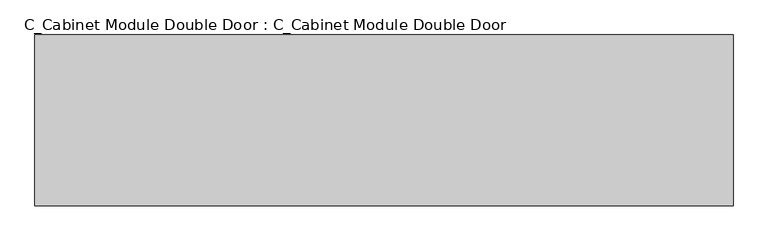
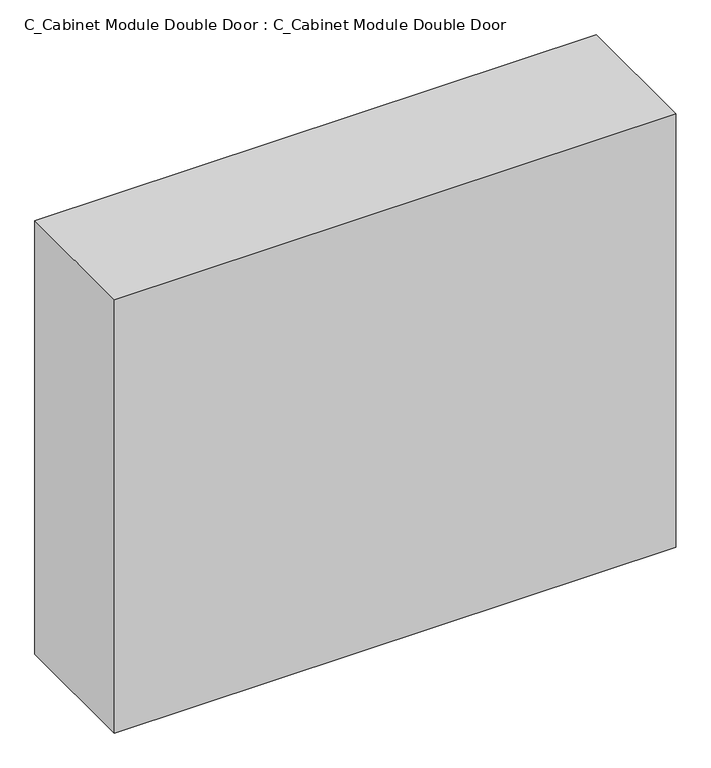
"""IFC4 building model written with IfcOpenShell, lengths in millimetres: furniture geometry, C_Cabinet Module Double Door : C_Cabinet Module Double Door."""

import ifcopenshell
import ifcopenshell.guid

model = None  # the IFC model being written
_history = None  # IfcOwnerHistory: only IFC2X3 demands one
_inside = {}  # id of a spatial element -> (the spatial element, [elements in it])
_under = {}  # id of a project, library or spatial element -> (it, [spatial elements below it])
_declared = {}  # id of a project -> (the project, [libraries it declares])
_typed = {}  # id of a type object -> (the type object, [elements of that type])
_made_of = {}  # id of a material, layer set ... -> (it, [elements and type objects made of it])


def new_model(schema):
    """Start an empty IFC model of exactly this schema.

    Asked for "IFC4X3", IfcOpenShell would pick the latest addendum, in which some entities
    have other attributes; the version numbers below select the first issue.
    IFC2X3 requires an IfcOwnerHistory on every rooted entity: one is made here for all.
    """
    global model, _history
    if schema == "IFC4X3":
        model = ifcopenshell.file(schema_version=(4, 3, 0, 0))
    else:
        model = ifcopenshell.file(schema=schema)
    _inside.clear()
    _under.clear()
    _declared.clear()
    _typed.clear()
    _made_of.clear()
    _history = None
    if model.schema == "IFC2X3":
        org = make("IfcOrganization", Name="unknown")
        user = make(
            "IfcPersonAndOrganization",
            ThePerson=make("IfcPerson", FamilyName="unknown"),
            TheOrganization=org,
        )
        app = make(
            "IfcApplication",
            ApplicationDeveloper=org,
            Version="unknown",
            ApplicationFullName="unknown",
            ApplicationIdentifier="unknown",
        )
        _history = make(
            "IfcOwnerHistory",
            OwningUser=user,
            OwningApplication=app,
            ChangeAction="ADDED",
            CreationDate=0,
        )
    return model


def make(cls, **values):
    """One entity of the class cls with the attributes given. An attribute that is None is left unset."""
    return model.create_entity(
        cls, **{name: value for name, value in values.items() if value is not None}
    )


def rooted(cls, **values):
    """An entity with a GlobalId (a new one), such as an element, a storey or a relation."""
    return make(cls, GlobalId=ifcopenshell.guid.new(), OwnerHistory=_history, **values)


def si_unit(unit_type, name, prefix=None):
    """IfcSIUnit, for example si_unit("LENGTHUNIT", "METRE", prefix="MILLI")."""
    return make("IfcSIUnit", UnitType=unit_type, Prefix=prefix, Name=name)


def assignment(units):
    """IfcUnitAssignment: the units of a project."""
    return None if units is None else make("IfcUnitAssignment", Units=units)


def point(xyz):
    """IfcCartesianPoint."""
    return None if xyz is None else make("IfcCartesianPoint", Coordinates=xyz)


def direction(xyz):
    """IfcDirection."""
    return None if xyz is None else make("IfcDirection", DirectionRatios=xyz)


def frame(location, z_axis=None, x_axis=None):
    """IfcAxis2Placement3D, a coordinate frame: its origin and axes. An axis left out is left unset."""
    return make(
        "IfcAxis2Placement3D",
        Location=point(location),
        Axis=direction(z_axis),
        RefDirection=direction(x_axis),
    )


def origin():
    """The frame at (0, 0, 0) with its axes left unset."""
    return frame((0.0, 0.0, 0.0))


def origin_with_axes():
    """The frame at (0, 0, 0) with the z axis (0, 0, 1) and the x axis (1, 0, 0) written out."""
    return frame((0.0, 0.0, 0.0), z_axis=(0.0, 0.0, 1.0), x_axis=(1.0, 0.0, 0.0))


def place(relative_to, where):
    """IfcLocalPlacement: puts the frame where relative to a parent placement (None: the world)."""
    return make(
        "IfcLocalPlacement", PlacementRelTo=relative_to, RelativePlacement=where
    )


def context(
    kind, dimensions, precision=None, world=None, true_north=None, identifier=None
):
    """IfcGeometricRepresentationContext, for example the 3D "Model" context."""
    return make(
        "IfcGeometricRepresentationContext",
        ContextIdentifier=identifier,
        ContextType=kind,
        CoordinateSpaceDimension=dimensions,
        Precision=precision,
        WorldCoordinateSystem=world,
        TrueNorth=true_north,
    )


def project(units=None, contexts=None):
    """IfcProject with its units and contexts."""
    return rooted(
        "IfcProject",
        Name="project",
        RepresentationContexts=contexts,
        UnitsInContext=assignment(units),
    )


def spatial(cls, under=None, at=None, **own):
    """A site, building, storey or space (cls), placed at a placement, below another one or the project."""
    s = rooted(cls, ObjectPlacement=at, **own)
    if under is not None:
        _under.setdefault(under.id(), (under, []))[1].append(s)
    return s


def polyline(points):
    """IfcPolyline through the points."""
    return make("IfcPolyline", Points=[point(p) for p in points])


def outline(outer, holes=None, kind="AREA"):
    """IfcArbitraryClosedProfileDef: a profile drawn as a closed curve; with holes, ...WithVoids."""
    if holes is None:
        return make("IfcArbitraryClosedProfileDef", ProfileType=kind, OuterCurve=outer)
    return make(
        "IfcArbitraryProfileDefWithVoids",
        ProfileType=kind,
        OuterCurve=outer,
        InnerCurves=holes,
    )


def extrude(swept, where, along, depth):
    """IfcExtrudedAreaSolid: the profile swept, set in the frame where, extruded along a direction by depth."""
    return make(
        "IfcExtrudedAreaSolid",
        SweptArea=swept,
        Position=where,
        ExtrudedDirection=direction(along),
        Depth=depth,
    )


def shape(context_of_items, identifier, shape_type, items):
    """IfcShapeRepresentation: the items that make up one representation, for example the "Body"."""
    return make(
        "IfcShapeRepresentation",
        ContextOfItems=context_of_items,
        RepresentationIdentifier=identifier,
        RepresentationType=shape_type,
        Items=items,
    )


def source(mapping_origin, context_of_items, identifier, shape_type, items):
    """IfcRepresentationMap: a shape defined once, which mapped items show again and again."""
    return make(
        "IfcRepresentationMap",
        MappingOrigin=mapping_origin,
        MappedRepresentation=shape(context_of_items, identifier, shape_type, items),
    )


def transform(
    local_origin,
    x_axis=None,
    y_axis=None,
    z_axis=None,
    scale=None,
    scale2=None,
    scale3=None,
    uniform=True,
):
    """IfcCartesianTransformationOperator3D, or its non-uniform kind. x_axis, y_axis, z_axis: its Axis1, 2, 3."""
    if uniform:
        return make(
            "IfcCartesianTransformationOperator3D",
            Axis1=direction(x_axis),
            Axis2=direction(y_axis),
            LocalOrigin=point(local_origin),
            Scale=scale,
            Axis3=direction(z_axis),
        )
    return make(
        "IfcCartesianTransformationOperator3DnonUniform",
        Axis1=direction(x_axis),
        Axis2=direction(y_axis),
        LocalOrigin=point(local_origin),
        Scale=scale,
        Axis3=direction(z_axis),
        Scale2=scale2,
        Scale3=scale3,
    )


def mapped(mapping_source, mapping_target):
    """IfcMappedItem: shows the shape of a source again, moved by a transform."""
    return make(
        "IfcMappedItem", MappingSource=mapping_source, MappingTarget=mapping_target
    )


def made_of(thing, what):
    """Note that an element or type object is made of a material, layer set ...; save() writes the relation."""
    if what is not None:
        _made_of.setdefault(what.id(), (what, []))[1].append(thing)
    return thing


def element(
    cls,
    number,
    at=None,
    inside=None,
    cuts=None,
    type_object=None,
    material=None,
    context=None,
    identifier="Body",
    shape_type=None,
    held_by="IfcProductDefinitionShape",
    body=None,
    shapes=None,
    **own,
):
    """One element of the class cls, such as IfcWall. Its Tag is "e" and its number.

    at: its placement. inside: the storey or other place that contains it. cuts: it is an
    opening in that element (IfcRelVoidsElement). A single representation is given by context,
    identifier, shape_type and body (its items); several are given by shapes. held_by: the class
    of the entity that holds the representations. save() writes the other relations.
    """
    e = rooted(cls, Tag="e%d" % number, ObjectPlacement=at, **own)
    if body is not None:
        shapes = [shape(context, identifier, shape_type, body)]
    if shapes is not None:
        e.Representation = make(held_by, Representations=shapes)
    if inside is not None:
        _inside.setdefault(inside.id(), (inside, []))[1].append(e)
    if cuts is not None:
        rooted(
            "IfcRelVoidsElement", RelatingBuildingElement=cuts, RelatedOpeningElement=e
        )
    if type_object is not None:
        _typed.setdefault(type_object.id(), (type_object, []))[1].append(e)
    return made_of(e, material)


def aggregate(whole, parts):
    """IfcRelAggregates: a whole, such as a stair, and the parts it consists of."""
    return rooted("IfcRelAggregates", RelatingObject=whole, RelatedObjects=parts)


def save(model, path):
    """Write the relations noted so far, then the file.

    IfcRelAggregates (storeys below a building ...), IfcRelContainedInSpatialStructure (elements
    in a storey), IfcRelDefinesByType, IfcRelAssociatesMaterial and IfcRelDeclares: one each for
    every whole, place, type object, material and project.
    """
    for whole, parts in _under.values():
        aggregate(whole, parts)
    for where, things in _inside.values():
        rooted(
            "IfcRelContainedInSpatialStructure",
            RelatedElements=things,
            RelatingStructure=where,
        )
    for kind, things in _typed.values():
        rooted("IfcRelDefinesByType", RelatedObjects=things, RelatingType=kind)
    for what, things in _made_of.values():
        rooted("IfcRelAssociatesMaterial", RelatedObjects=things, RelatingMaterial=what)
    for by, libraries in _declared.values():
        rooted("IfcRelDeclares", RelatingContext=by, RelatedDefinitions=libraries)
    model.write(path)


def c_cabinet_module_double_door_c_cabinet_module_double_door_7147030d(model_context):
    return source(origin(), model_context, "Body", "SweptSolid", [
        extrude(outline(polyline([(622.3496094, 0.0), (-622.3496094, 0.0), (-622.3496094, 304.8), (622.3496094, 304.8), (622.3496094, 0.0)])), origin_with_axes(), (0.0, 0.0, 1.0), 1016.0),
    ])


if __name__ == "__main__":
    model = new_model("IFC4")
    model_context = context("Model", 3, world=origin())
    ifc_project = project(units=[si_unit("LENGTHUNIT", "METRE", prefix="MILLI")], contexts=[model_context])
    site = spatial("IfcSite", under=ifc_project)
    building = spatial("IfcBuilding", under=site)
    placement = place(None, origin())
    c_cabinet_module_double_door_c_cabinet_module_double_door_shape = c_cabinet_module_double_door_c_cabinet_module_double_door_7147030d(model_context)
    element("IfcFurniture", 1, ObjectType="C_Cabinet Module Double Door : C_Cabinet Module Double Door", at=placement, inside=building, context=model_context, shape_type="MappedRepresentation", body=[
        mapped(c_cabinet_module_double_door_c_cabinet_module_double_door_shape, transform((0.0, 0.0, 0.0), x_axis=(1.0, 0.0, 0.0), y_axis=(0.0, 1.0, 0.0), z_axis=(0.0, 0.0, 1.0))),
    ])
    save(model, "model.ifc")
